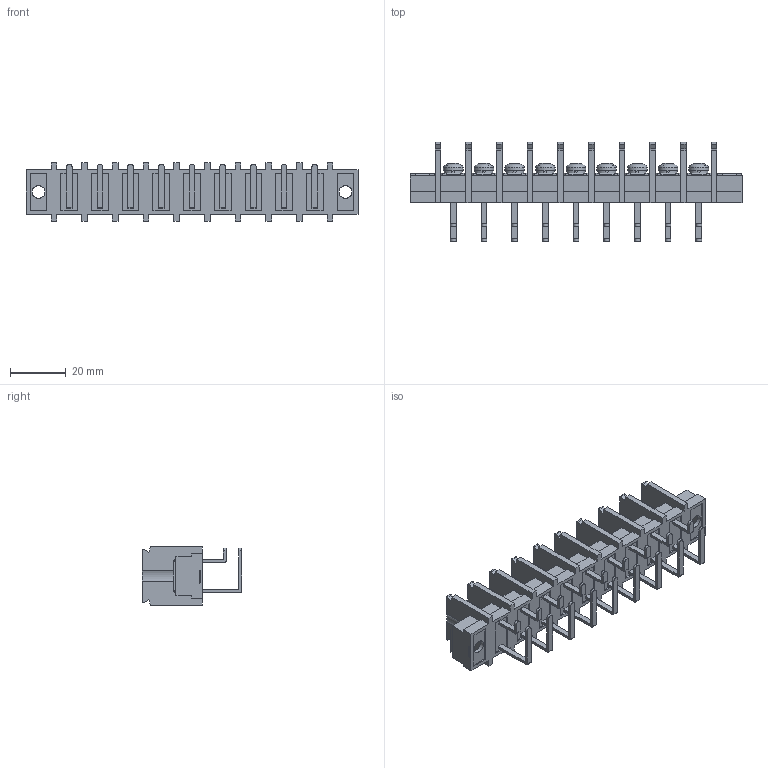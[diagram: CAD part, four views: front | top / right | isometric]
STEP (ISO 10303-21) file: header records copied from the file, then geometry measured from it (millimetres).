
FILE_DESCRIPTION(/* description */ ('Alibre Inc.'),/* implementation_level */ '2;1');
FILE_NAME(/* name */ 'export0',/* time_stamp */ '2015-12-02T13:03:06+09:00',/* author */ (''),/* organization */ (''),/* preprocessor_version */ 'ST-DEVELOPER v14',/* originating_system */ 'Alibre',/* authorisation */ '');
FILE_SCHEMA (('CONFIG_CONTROL_DESIGN'));
Length unit declared in the file: centimetre
Products named in the file (1): ID_1
Bounding box: 119 x 35.5 x 21 mm (x, y, z)
Volume: 20386 mm3; surface area: 23142.2 mm2
Topology: 1 solids, 17 shells, 1437 faces, 3952 edges, 2624 vertices
Faces by surface type: plane 1132, cylinder 138, bspline 104, cone 45, torus 9, sphere 9
Full cylindrical faces by diameter (mm): 4 x9, 4.55 x2, 4.6 x2, 6.5 x9, 7 x9
Entity records: 43533 total; most frequent: CARTESIAN_POINT 9009, ORIENTED_EDGE 7820, DIRECTION 5509, EDGE_CURVE 3910, VECTOR 3011, LINE 3011, VERTEX_POINT 2622, AXIS2_PLACEMENT_3D 1768
